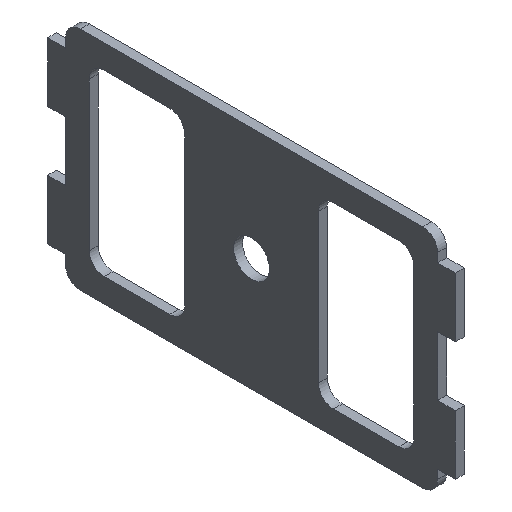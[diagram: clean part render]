
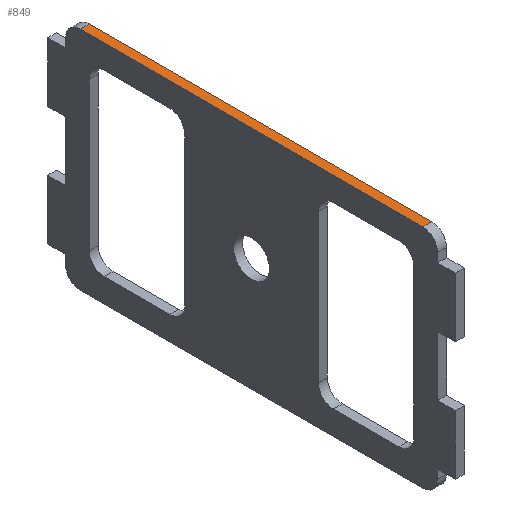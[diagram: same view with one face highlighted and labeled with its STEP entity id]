
A CAD part, isometric view. The second image highlights one B-rep face of the part: STEP entity #849.
In plain terms, the highlighted planar face has unit normal (0, 0, 1).
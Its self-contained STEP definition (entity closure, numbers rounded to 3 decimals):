
#32=PLANE('',#930);
#73=FACE_OUTER_BOUND('',#119,.T.);
#119=EDGE_LOOP('',(#693,#694,#695,#696));
#189=LINE('',#1324,#286);
#203=LINE('',#1361,#300);
#204=LINE('',#1364,#301);
#205=LINE('',#1365,#302);
#286=VECTOR('',#1077,10.);
#300=VECTOR('',#1107,10.);
#301=VECTOR('',#1110,10.);
#302=VECTOR('',#1111,10.);
#410=VERTEX_POINT('',#1321);
#411=VERTEX_POINT('',#1323);
#425=VERTEX_POINT('',#1357);
#427=VERTEX_POINT('',#1363);
#510=EDGE_CURVE('',#410,#411,#189,.T.);
#529=EDGE_CURVE('',#411,#425,#203,.T.);
#530=EDGE_CURVE('',#427,#410,#204,.T.);
#531=EDGE_CURVE('',#425,#427,#205,.T.);
#693=ORIENTED_EDGE('',*,*,#529,.F.);
#694=ORIENTED_EDGE('',*,*,#510,.F.);
#695=ORIENTED_EDGE('',*,*,#530,.F.);
#696=ORIENTED_EDGE('',*,*,#531,.F.);
#849=ADVANCED_FACE('',(#73),#32,.T.);
#930=AXIS2_PLACEMENT_3D('',#1362,#1108,#1109);
#1077=DIRECTION('',(0.,1.,0.));
#1107=DIRECTION('',(1.,0.,0.));
#1108=DIRECTION('center_axis',(0.,0.,1.));
#1109=DIRECTION('ref_axis',(0.,-1.,0.));
#1110=DIRECTION('',(-1.,0.,0.));
#1111=DIRECTION('',(0.,-1.,0.));
#1321=CARTESIAN_POINT('',(0.,-57.5,38.));
#1323=CARTESIAN_POINT('',(0.,57.5,38.));
#1324=CARTESIAN_POINT('',(0.,-62.5,38.));
#1357=CARTESIAN_POINT('',(3.,57.5,38.));
#1361=CARTESIAN_POINT('',(0.,57.5,38.));
#1362=CARTESIAN_POINT('Origin',(0.,62.5,38.));
#1363=CARTESIAN_POINT('',(3.,-57.5,38.));
#1364=CARTESIAN_POINT('',(0.,-57.5,38.));
#1365=CARTESIAN_POINT('',(3.,-62.5,38.));
